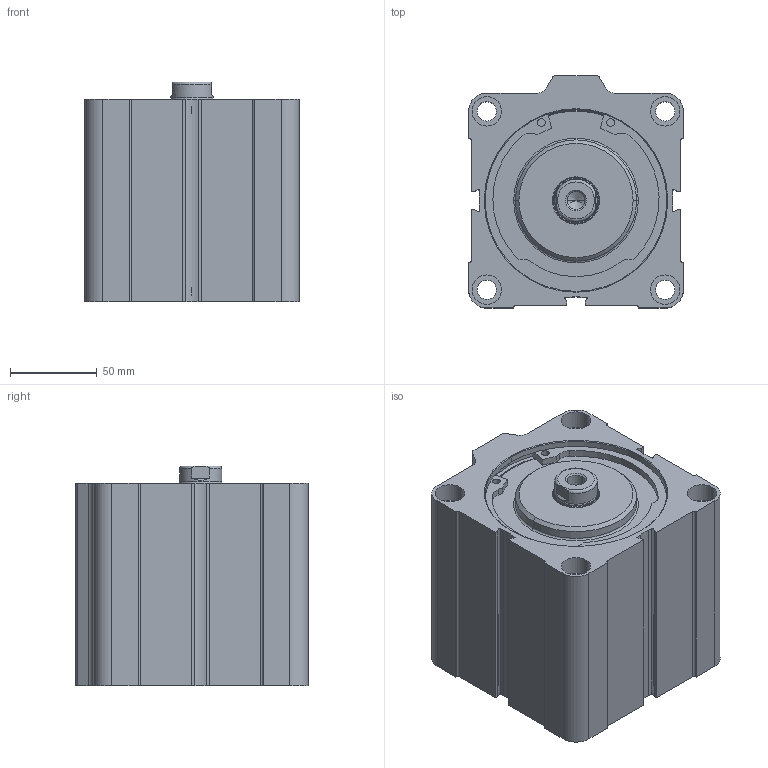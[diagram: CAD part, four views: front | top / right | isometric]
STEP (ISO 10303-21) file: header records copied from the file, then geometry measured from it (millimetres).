
FILE_DESCRIPTION (( 'STEP AP214' ), '1' );
FILE_NAME ('D11M21000050.STEP', '2021-11-09T11:51:03', ( '' ), ( '' ), 'SwSTEP 2.0', 'SolidWorks 2016', '' );
FILE_SCHEMA (( 'AUTOMOTIVE_DESIGN' ));
Length unit declared in the file: millimetre
Products named in the file (6): 22.J01.000_22.J01.050; 000.508.7_22.100.050; D11M21000050; TP Ø100 Corsa Breve WEB; Pistone Ø100 corsa breve WEB; TA Ø100 Corsa Breve WEB
Assembly tree (5 placements, depth 2):
  D11M21000050
    000.508.7_22.100.050
    22.J01.000_22.J01.050
    TA Ø100 Corsa Breve WEB
    TP Ø100 Corsa Breve WEB
    Pistone Ø100 corsa breve WEB
Bounding box: 124 x 134 x 127 mm (x, y, z)
Volume: 1251092.1 mm3; surface area: 233597.9 mm2
Topology: 8 solids, 8 shells, 344 faces, 812 edges, 507 vertices
Faces by surface type: cylinder 149, plane 99, cone 74, torus 22
Entity records: 12120 total; most frequent: DIRECTION 1910, CARTESIAN_POINT 1857, ORIENTED_EDGE 1620, EDGE_CURVE 810, AXIS2_PLACEMENT_3D 760, VERTEX_POINT 507, CIRCLE 408, EDGE_LOOP 397
